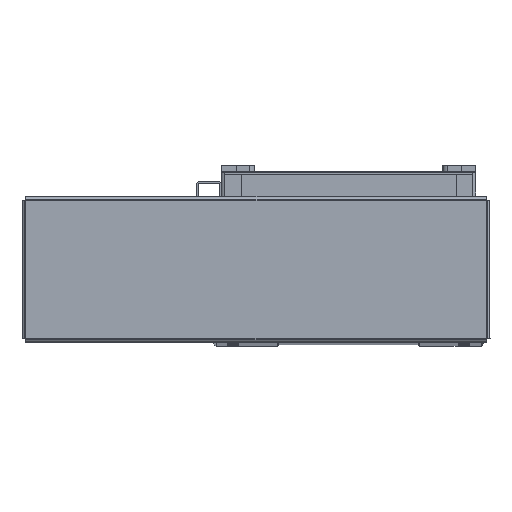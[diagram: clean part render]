
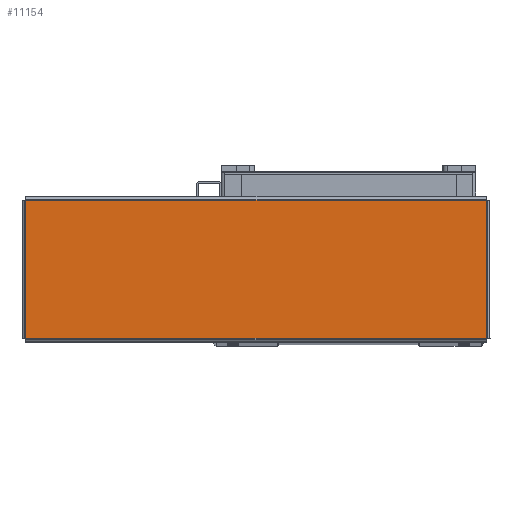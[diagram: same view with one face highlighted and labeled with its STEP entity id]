
A CAD part, top view. The second image highlights one B-rep face of the part: STEP entity #11154.
In plain terms, the highlighted planar face has unit normal (0, 0, 1) as drawn and (0, -1, 0) by its records, which use the part's own axes.
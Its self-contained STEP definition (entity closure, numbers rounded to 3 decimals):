
#11154 = ADVANCED_FACE ( 'NONE', ( #32037 ), #54506, .F. ) ;
#13040 = CARTESIAN_POINT ( 'NONE',  ( -139.293, -1.5, -41.763 ) ) ;
#13042 = DIRECTION ( 'NONE',  ( 1., 0., 0. ) ) ;
#13191 = CARTESIAN_POINT ( 'NONE',  ( -139.263, -1.5, 41.793 ) ) ;
#13202 = DIRECTION ( 'NONE',  ( 0., 0., -1. ) ) ;
#13214 = CARTESIAN_POINT ( 'NONE',  ( 139.293, -1.5, 41.763 ) ) ;
#13248 = CARTESIAN_POINT ( 'NONE',  ( 139.263, -1.5, -41.793 ) ) ;
#13249 = DIRECTION ( 'NONE',  ( 0., 0., 1. ) ) ;
#13293 = DIRECTION ( 'NONE',  ( -1., 0., 0. ) ) ;
#14404 = LINE ( 'NONE', #13040, #14441 ) ;
#14441 = VECTOR ( 'NONE', #13042, 1000. ) ;
#14464 = VECTOR ( 'NONE', #13249, 1000. ) ;
#14469 = VECTOR ( 'NONE', #13202, 1000. ) ;
#14470 = LINE ( 'NONE', #13214, #14507 ) ;
#14490 = LINE ( 'NONE', #13248, #14464 ) ;
#14498 = LINE ( 'NONE', #13191, #14469 ) ;
#14507 = VECTOR ( 'NONE', #13293, 1000. ) ;
#26954 = AXIS2_PLACEMENT_3D ( 'NONE', #54729, #54777, #54753 ) ;
#32037 = FACE_OUTER_BOUND ( 'NONE', #49796, .T. ) ;
#34079 = EDGE_CURVE ( 'NONE', #43374, #43323, #14404, .T. ) ;
#34151 = EDGE_CURVE ( 'NONE', #43307, #43374, #14498, .T. ) ;
#34184 = EDGE_CURVE ( 'NONE', #43323, #43308, #14490, .T. ) ;
#34188 = EDGE_CURVE ( 'NONE', #43308, #43307, #14470, .T. ) ;
#39509 = ORIENTED_EDGE ( 'NONE', *, *, #34188, .T. ) ;
#39614 = ORIENTED_EDGE ( 'NONE', *, *, #34151, .T. ) ;
#39624 = ORIENTED_EDGE ( 'NONE', *, *, #34184, .T. ) ;
#39626 = ORIENTED_EDGE ( 'NONE', *, *, #34079, .T. ) ;
#43307 = VERTEX_POINT ( 'NONE', #49561 ) ;
#43308 = VERTEX_POINT ( 'NONE', #49679 ) ;
#43323 = VERTEX_POINT ( 'NONE', #49626 ) ;
#43374 = VERTEX_POINT ( 'NONE', #49776 ) ;
#49561 = CARTESIAN_POINT ( 'NONE',  ( -139.263, -1.5, 41.763 ) ) ;
#49626 = CARTESIAN_POINT ( 'NONE',  ( 139.263, -1.5, -41.763 ) ) ;
#49679 = CARTESIAN_POINT ( 'NONE',  ( 139.263, -1.5, 41.763 ) ) ;
#49776 = CARTESIAN_POINT ( 'NONE',  ( -139.263, -1.5, -41.763 ) ) ;
#49796 = EDGE_LOOP ( 'NONE', ( #39624, #39509, #39614, #39626 ) ) ;
#54506 = PLANE ( 'NONE',  #26954 ) ;
#54729 = CARTESIAN_POINT ( 'NONE',  ( 0., -1.5, 0. ) ) ;
#54753 = DIRECTION ( 'NONE',  ( 0., 0., 1. ) ) ;
#54777 = DIRECTION ( 'NONE',  ( 0., 1., 0. ) ) ;
